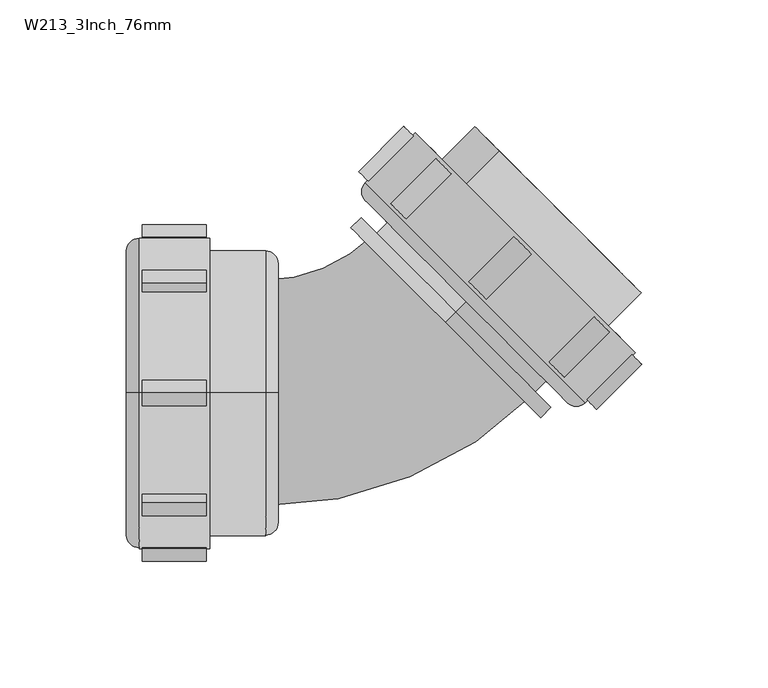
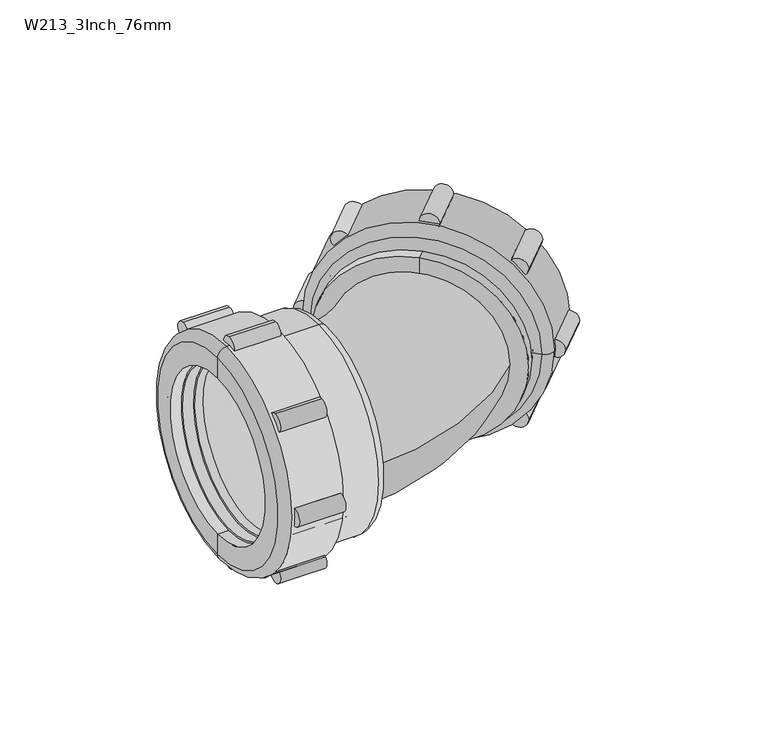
"""IFC4 building model written with IfcOpenShell, lengths in millimetres: pipe fitting geometry, Durapipe_PipeFitting_VulcatheneMechanical_135LooseNutSweepBend_W21 : W213_3Inch_76mm."""

from ifc_helpers import new_model, si_unit, point, frame, frame_2d, origin, place, context, project, spatial, polyline, circle_curve, ellipse_curve, trimmed, segment, composite_curve, outline, extrude, source, transform, mapped, element, save
from ifc_brep_helpers import plane_surface, cylinder_surface, revolved_surface, advanced_brep


def w213_3inch_76mm_c7faae38(model_context):
    return source(origin(), model_context, "Body", "SolidModel", [
        advanced_brep(
        [(15.1176257, 66.0176257, 35.9917352), (18.4176257, 62.7176257, 31.3248304), (62.7176257, 18.4176257, -31.3248304), (66.0176257, 15.1176257, -35.9917352), (78.1718934, 31.6718934, -32.8804653), (31.6718934, 78.1718934, 32.8804653), (49.1374309, 95.6374309, 32.8804653), (95.6374309, 49.1374309, -32.8804653), (94.5374309, 50.2374309, -31.3248304), (50.2374309, 94.5374309, 31.3248304), (70.2836683, 25.9836683, -31.3248304), (25.9836683, 70.2836683, 31.3248304), (69.8336683, 26.4336683, -30.6884343), (26.4336683, 69.8336683, 30.6884343), (22.7309771, 67.0309771, 31.3248304), (23.1809771, 66.5809771, 30.6884343), (66.5809771, 23.1809771, -30.6884343), (67.0309771, 22.7309771, -31.3248304)],
        [
            (0, 1),
            (1, 2, circle_curve(frame((40.5676257, 40.5676257, 0.0), z_axis=(0.7071067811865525, 0.7071067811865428, 0.0), x_axis=(0.4999999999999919, -0.5000000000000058, -0.7071067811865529)), 44.3)),
            (2, 3),
            (3, 0, circle_curve(frame((40.5676257, 40.5676257, 0.0), z_axis=(-0.7071067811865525, -0.7071067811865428, 0.0), x_axis=(0.4999999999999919, -0.5000000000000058, -0.7071067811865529)), 50.9)),
            (2, 1, circle_curve(frame((40.5676257, 40.5676257, 0.0), z_axis=(0.7071067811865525, 0.7071067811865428, 0.0), x_axis=(0.4999999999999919, -0.5000000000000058, -0.7071067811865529)), 44.3)),
            (0, 3, circle_curve(frame((40.5676257, 40.5676257, 0.0), z_axis=(-0.7071067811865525, -0.7071067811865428, 0.0), x_axis=(0.4999999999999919, -0.5000000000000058, -0.7071067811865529)), 50.9)),
            (3, 4),
            (4, 5, circle_curve(frame((54.9218934, 54.9218934, 0.0), z_axis=(-0.7071067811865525, -0.7071067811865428, 0.0), x_axis=(0.4999999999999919, -0.5000000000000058, -0.7071067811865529)), 46.5)),
            (5, 0),
            (5, 4, circle_curve(frame((54.9218934, 54.9218934, 0.0), z_axis=(-0.7071067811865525, -0.7071067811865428, 0.0), x_axis=(0.4999999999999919, -0.5000000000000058, -0.7071067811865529)), 46.5)),
            (6, 5),
            (4, 7),
            (7, 6, circle_curve(frame((72.3874309, 72.3874309, 0.0), z_axis=(-0.7071067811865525, -0.7071067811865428, 0.0), x_axis=(0.4999999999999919, -0.5000000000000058, -0.7071067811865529)), 46.5)),
            (6, 7, circle_curve(frame((72.3874309, 72.3874309, 0.0), z_axis=(-0.7071067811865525, -0.7071067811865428, 0.0), x_axis=(0.4999999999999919, -0.5000000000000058, -0.7071067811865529)), 46.5)),
            (7, 8),
            (8, 9, circle_curve(frame((72.3874309, 72.3874309, 0.0), z_axis=(-0.7071067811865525, -0.7071067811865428, 0.0), x_axis=(0.4999999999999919, -0.5000000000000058, -0.7071067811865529)), 44.3)),
            (9, 6),
            (9, 8, circle_curve(frame((72.3874309, 72.3874309, 0.0), z_axis=(-0.7071067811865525, -0.7071067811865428, 0.0), x_axis=(0.4999999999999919, -0.5000000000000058, -0.7071067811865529)), 44.3)),
            (8, 10),
            (10, 11, circle_curve(frame((48.1336683, 48.1336683, 0.0), z_axis=(-0.7071067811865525, -0.7071067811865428, 0.0), x_axis=(0.4999999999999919, -0.5000000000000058, -0.7071067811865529)), 44.3)),
            (11, 9),
            (11, 10, circle_curve(frame((48.1336683, 48.1336683, 0.0), z_axis=(-0.7071067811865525, -0.7071067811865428, 0.0), x_axis=(0.4999999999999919, -0.5000000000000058, -0.7071067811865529)), 44.3)),
            (10, 12),
            (12, 13, circle_curve(frame((48.1336683, 48.1336683, 0.0), z_axis=(-0.7071067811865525, -0.7071067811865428, 0.0), x_axis=(0.4999999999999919, -0.5000000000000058, -0.7071067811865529)), 43.4)),
            (13, 11),
            (13, 12, circle_curve(frame((48.1336683, 48.1336683, 0.0), z_axis=(-0.7071067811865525, -0.7071067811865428, 0.0), x_axis=(0.4999999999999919, -0.5000000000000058, -0.7071067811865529)), 43.4)),
            (14, 15),
            (15, 16, circle_curve(frame((44.8809771, 44.8809771, 0.0), z_axis=(0.7071067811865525, 0.7071067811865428, 0.0), x_axis=(0.4999999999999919, -0.5000000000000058, -0.7071067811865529)), 43.4)),
            (16, 17),
            (17, 14, circle_curve(frame((44.8809771, 44.8809771, 0.0), z_axis=(-0.7071067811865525, -0.7071067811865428, 0.0), x_axis=(0.4999999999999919, -0.5000000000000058, -0.7071067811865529)), 44.3)),
            (16, 15, circle_curve(frame((44.8809771, 44.8809771, 0.0), z_axis=(0.7071067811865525, 0.7071067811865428, 0.0), x_axis=(0.4999999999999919, -0.5000000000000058, -0.7071067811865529)), 43.4)),
            (14, 17, circle_curve(frame((44.8809771, 44.8809771, 0.0), z_axis=(-0.7071067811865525, -0.7071067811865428, 0.0), x_axis=(0.4999999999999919, -0.5000000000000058, -0.7071067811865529)), 44.3)),
            (1, 14),
            (17, 2),
            (12, 16),
            (15, 13),
        ],
        [
            plane_surface(frame((40.5676257, 40.5676257, 0.0), z_axis=(-0.7071067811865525, -0.7071067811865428, 0.0), x_axis=(0.4999999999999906, -0.5000000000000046, -0.7071067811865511))),
            revolved_surface(polyline([(66.0176257, 15.1176257, -35.9917352), (78.1718934, 31.6718934, -32.8804653)]), (37.0320918, 37.0320918, 0.0), (0.7071067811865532, 0.7071067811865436, 0.0)),
            cylinder_surface(frame((73.8516056, 73.8516056, 0.0), z_axis=(0.7071067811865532, 0.7071067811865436, 0.0), x_axis=(0.4999999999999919, -0.5000000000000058, -0.7071067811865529)), 46.5),
            plane_surface(frame((72.3874309, 72.3874309, 0.0), z_axis=(0.7071067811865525, 0.7071067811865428, 0.0), x_axis=(0.4999999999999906, -0.5000000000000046, -0.7071067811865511))),
            revolved_surface(polyline([(94.53743089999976, 50.23743089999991, -31.324830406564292), (70.28366829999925, 25.983668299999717, -31.324830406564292)]), (74.8573485, 74.8573485, 0.0), (0.7071067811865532, 0.7071067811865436, 0.0)),
            plane_surface(frame((48.1336683, 48.1336683, 0.0), z_axis=(0.7071067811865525, 0.7071067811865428, 0.0), x_axis=(0.4999999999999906, -0.5000000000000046, -0.7071067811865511))),
            plane_surface(frame((44.8809771, 44.8809771, 0.0), z_axis=(-0.7071067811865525, -0.7071067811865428, 0.0), x_axis=(0.4999999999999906, -0.5000000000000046, -0.7071067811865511))),
            revolved_surface(polyline([(67.03097709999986, 22.730977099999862, -31.324830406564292), (62.717625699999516, 18.417625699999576, -31.324830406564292)]), (37.0320918, 37.0320918, 0.0), (0.7071067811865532, 0.7071067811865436, 0.0)),
            revolved_surface(polyline([(69.83366829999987, 26.43366829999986, -30.688434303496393), (66.58097709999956, 23.180977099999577, -30.688434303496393)]), (39.4601604, 39.4601604, 0.0), (0.7071067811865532, 0.7071067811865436, 0.0)),
        ],
        [
            (0, [[1, 2, 3, 4]]),
            (0, [[5, -1, 6, -3]]),
            (1, [[7, 8, 9, -4]]),
            (1, [[-9, 10, -7, -6]]),
            (2, [[11, -8, 12, 13]]),
            (2, [[-10, -11, 14, -12]]),
            (3, [[15, 16, 17, -13]]),
            (3, [[-17, 18, -15, -14]]),
            (4, [[-16, 19, 20, 21]]),
            (4, [[22, -19, -18, -21]]),
            (5, [[23, 24, 25, -20]]),
            (5, [[-25, 26, -23, -22]]),
            (6, [[27, 28, 29, 30]]),
            (6, [[-29, 31, -27, 32]]),
            (7, [[33, -30, 34, -2]]),
            (7, [[-34, -32, -33, -5]]),
            (8, [[-24, 35, -28, 36]]),
            (8, [[-31, -35, -26, -36]]),
        ],
    ),
        advanced_brep(
        [(15.9603097, 102.9344438, 0.0), (-3.8386801, 83.135454, 0.0), (83.135454, -3.8386801, 0.0), (102.9344438, 15.9603097, 0.0), (21.9707174, 96.9240362, 0.0), (96.9240362, 21.9707174, 0.0), (-3.8386801, 76.0643861, 0.0), (4.2930479, 67.9326582, 0.0), (67.9326582, 4.2930479, 0.0), (76.0643861, -3.8386801, 0.0), (3.0909663, 78.0442851, 0.0), (78.0442851, 3.0909663, 0.0), (8.7478206, 72.3874309, 0.0), (72.3874309, 8.7478206, 0.0)],
        [
            (0, 1),
            (1, 2, circle_curve(frame((39.6483869, 39.6483869, 0.0), z_axis=(0.7071067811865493, 0.7071067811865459, 0.0), x_axis=(0.7071067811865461, -0.7071067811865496, 0.0)), 61.5)),
            (2, 3),
            (3, 0, circle_curve(frame((59.4473768, 59.4473768, 0.0), z_axis=(-0.7071067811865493, -0.7071067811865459, 0.0), x_axis=(0.7071067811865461, -0.7071067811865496, 0.0)), 61.5)),
            (2, 1, circle_curve(frame((39.6483869, 39.6483869, 0.0), z_axis=(0.7071067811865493, 0.7071067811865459, 0.0), x_axis=(0.7071067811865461, -0.7071067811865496, 0.0)), 61.5)),
            (0, 3, circle_curve(frame((59.4473768, 59.4473768, 0.0), z_axis=(-0.7071067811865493, -0.7071067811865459, 0.0), x_axis=(0.7071067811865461, -0.7071067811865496, 0.0)), 61.5)),
            (4, 0),
            (3, 5),
            (5, 4, circle_curve(frame((59.4473768, 59.4473768, 0.0), z_axis=(-0.7071067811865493, -0.7071067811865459, 0.0), x_axis=(0.7071067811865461, -0.7071067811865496, 0.0)), 53.0)),
            (4, 5, circle_curve(frame((59.4473768, 59.4473768, 0.0), z_axis=(-0.7071067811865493, -0.7071067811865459, 0.0), x_axis=(0.7071067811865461, -0.7071067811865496, 0.0)), 53.0)),
            (6, 7),
            (7, 8, circle_curve(frame((36.112853, 36.112853, 0.0), z_axis=(0.7071067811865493, 0.7071067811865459, 0.0), x_axis=(0.7071067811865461, -0.7071067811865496, 0.0)), 45.0)),
            (8, 9),
            (9, 6, circle_curve(frame((36.112853, 36.112853, 0.0), z_axis=(-0.7071067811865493, -0.7071067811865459, 0.0), x_axis=(0.7071067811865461, -0.7071067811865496, 0.0)), 56.5)),
            (8, 7, circle_curve(frame((36.112853, 36.112853, 0.0), z_axis=(0.7071067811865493, 0.7071067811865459, 0.0), x_axis=(0.7071067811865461, -0.7071067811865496, 0.0)), 45.0)),
            (6, 9, circle_curve(frame((36.112853, 36.112853, 0.0), z_axis=(-0.7071067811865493, -0.7071067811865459, 0.0), x_axis=(0.7071067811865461, -0.7071067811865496, 0.0)), 56.5)),
            (1, 6, circle_curve(frame((-0.3031462, 79.59992, 0.0), z_axis=(0.0, 0.0, 1.0000000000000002), x_axis=(-0.7071067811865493, -0.7071067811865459, 0.0)), 5.0)),
            (9, 2, circle_curve(frame((79.59992, -0.3031462, 0.0), z_axis=(0.0, 0.0, 1.0000000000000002), x_axis=(-0.7071067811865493, -0.7071067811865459, 0.0)), 5.0)),
            (10, 4),
            (5, 11),
            (11, 10, circle_curve(frame((40.5676257, 40.5676257, 0.0), z_axis=(-0.7071067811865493, -0.7071067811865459, 0.0), x_axis=(0.7071067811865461, -0.7071067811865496, 0.0)), 53.0)),
            (10, 11, circle_curve(frame((40.5676257, 40.5676257, 0.0), z_axis=(-0.7071067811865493, -0.7071067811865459, 0.0), x_axis=(0.7071067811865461, -0.7071067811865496, 0.0)), 53.0)),
            (12, 10),
            (11, 13),
            (13, 12, circle_curve(frame((40.5676257, 40.5676257, 0.0), z_axis=(-0.7071067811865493, -0.7071067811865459, 0.0), x_axis=(0.7071067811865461, -0.7071067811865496, 0.0)), 45.0)),
            (12, 13, circle_curve(frame((40.5676257, 40.5676257, 0.0), z_axis=(-0.7071067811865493, -0.7071067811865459, 0.0), x_axis=(0.7071067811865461, -0.7071067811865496, 0.0)), 45.0)),
            (7, 12),
            (13, 8),
        ],
        [
            cylinder_surface(frame((-1067.5406969, -1067.5406969, 0.0), z_axis=(0.7071067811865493, 0.7071067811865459, 0.0), x_axis=(0.7071067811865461, -0.7071067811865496, 0.0)), 61.5),
            plane_surface(frame((59.4473768, 59.4473768, 0.0), z_axis=(0.7071067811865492, 0.7071067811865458, 0.0), x_axis=(0.7071067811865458, -0.7071067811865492, 0.0))),
            plane_surface(frame((36.112853, 36.112853, 0.0), z_axis=(-0.7071067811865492, -0.7071067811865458, 0.0), x_axis=(0.7071067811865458, -0.7071067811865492, 0.0))),
            revolved_surface(trimmed(ellipse_curve(frame((79.59992, -0.3031462, 0.0), z_axis=(0.0, 0.0, 1.0000000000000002), x_axis=(-0.7071067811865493, -0.7071067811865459, 0.0)), 5.0, 5.0), [point((76.0643861, -3.8386801, 0.0))], [point((83.135454, -3.8386801, 0.0))], True, "CARTESIAN"), (-1067.5406969, -1067.5406969, 0.0), (0.7071067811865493, 0.7071067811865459, 0.0)),
            revolved_surface(polyline([(96.92403620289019, 21.970717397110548, 0.0), (78.04428510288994, 3.090966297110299, 0.0)]), (-1067.5406969, -1067.5406969, 0.0), (0.7071067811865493, 0.7071067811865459, 0.0)),
            plane_surface(frame((40.5676257, 40.5676257, 0.0), z_axis=(0.7071067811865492, 0.7071067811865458, 0.0), x_axis=(0.7071067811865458, -0.7071067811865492, 0.0))),
            revolved_surface(polyline([(72.38743090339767, 8.747820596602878, 0.0), (67.9326581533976, 4.293047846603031, 0.0)]), (-1067.5406969, -1067.5406969, 0.0), (0.7071067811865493, 0.7071067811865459, 0.0)),
        ],
        [
            (0, [[1, 2, 3, 4]]),
            (0, [[-3, 5, -1, 6]]),
            (1, [[7, -4, 8, 9]]),
            (1, [[-8, -6, -7, 10]]),
            (2, [[11, 12, 13, 14]]),
            (2, [[-13, 15, -11, 16]]),
            (3, [[17, -14, 18, -2]]),
            (3, [[-18, -16, -17, -5]]),
            (4, [[19, -9, 20, 21]]),
            (4, [[-20, -10, -19, 22]]),
            (5, [[23, -21, 24, 25]]),
            (5, [[-24, -22, -23, 26]]),
            (6, [[27, -25, 28, -12]]),
            (6, [[-28, -26, -27, -15]]),
        ],
    ),
        extrude(outline(composite_curve([segment(trimmed(circle_curve(frame_2d((0.0, 5.0)), 5.0), [point((0.0, 10.0))], [point((0.0, 0.0))], False, "CARTESIAN"), True, "CONTINUOUS"), segment(trimmed(circle_curve(frame_2d((0.0, 5.0)), 5.0), [point((0.0, 0.0))], [point((0.0, 10.0))], False, "CARTESIAN"), True, "CONTINUOUS")], self_intersect=False)), frame((44.1031596, 37.0320918, -61.5), z_axis=(0.7071067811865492, 0.7071067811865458, 0.0), x_axis=(0.0, 0.0, -1.0)), (0.0, 0.0, 1.0), 25.2),
        extrude(outline(composite_curve([segment(trimmed(circle_curve(frame_2d((-18.012933, -38.4870671)), 5.0), [point((-18.012933, -33.4870671))], [point((-18.012933, -43.487067))], False, "CARTESIAN"), True, "CONTINUOUS"), segment(trimmed(circle_curve(frame_2d((-18.012933, -38.4870671)), 5.0), [point((-18.012933, -43.487067))], [point((-18.012933, -33.4870671))], False, "CARTESIAN"), True, "CONTINUOUS")], self_intersect=False)), frame((44.1031596, 37.0320918, -61.5), z_axis=(0.7071067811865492, 0.7071067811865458, 0.0), x_axis=(0.0, 0.0, -1.0)), (0.0, 0.0, 1.0), 25.2),
        extrude(outline(composite_curve([segment(trimmed(circle_curve(frame_2d((-61.5, -56.5)), 5.0), [point((-61.5, -51.5))], [point((-61.5, -61.5))], False, "CARTESIAN"), True, "CONTINUOUS"), segment(trimmed(circle_curve(frame_2d((-61.5, -56.5)), 5.0), [point((-61.5, -61.5))], [point((-61.5, -51.5))], False, "CARTESIAN"), True, "CONTINUOUS")], self_intersect=False)), frame((44.1031596, 37.0320918, -61.5), z_axis=(0.7071067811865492, 0.7071067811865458, 0.0), x_axis=(0.0, 0.0, -1.0)), (0.0, 0.0, 1.0), 25.2),
        extrude(outline(composite_curve([segment(trimmed(circle_curve(frame_2d((-104.987067, -38.4870671)), 5.0), [point((-104.987067, -33.4870671))], [point((-104.987067, -43.487067))], False, "CARTESIAN"), True, "CONTINUOUS"), segment(trimmed(circle_curve(frame_2d((-104.987067, -38.4870671)), 5.0), [point((-104.987067, -43.487067))], [point((-104.987067, -33.4870671))], False, "CARTESIAN"), True, "CONTINUOUS")], self_intersect=False)), frame((44.1031596, 37.0320918, -61.5), z_axis=(0.7071067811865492, 0.7071067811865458, 0.0), x_axis=(0.0, 0.0, -1.0)), (0.0, 0.0, 1.0), 25.2),
        extrude(outline(composite_curve([segment(trimmed(circle_curve(frame_2d((-123.0, 5.0)), 5.0), [point((-123.0, 10.0))], [point((-123.0, 0.0))], False, "CARTESIAN"), True, "CONTINUOUS"), segment(trimmed(circle_curve(frame_2d((-123.0, 5.0)), 5.0), [point((-123.0, 0.0))], [point((-123.0, 10.0))], False, "CARTESIAN"), True, "CONTINUOUS")], self_intersect=False)), frame((44.1031596, 37.0320918, -61.5), z_axis=(0.7071067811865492, 0.7071067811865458, 0.0), x_axis=(0.0, 0.0, -1.0)), (0.0, 0.0, 1.0), 25.2),
        extrude(outline(composite_curve([segment(trimmed(circle_curve(frame_2d((-104.987067, 48.487067)), 5.0), [point((-104.987067, 53.487067))], [point((-104.987067, 43.487067))], False, "CARTESIAN"), True, "CONTINUOUS"), segment(trimmed(circle_curve(frame_2d((-104.987067, 48.487067)), 5.0), [point((-104.987067, 43.487067))], [point((-104.987067, 53.487067))], False, "CARTESIAN"), True, "CONTINUOUS")], self_intersect=False)), frame((44.1031596, 37.0320918, -61.5), z_axis=(0.7071067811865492, 0.7071067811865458, 0.0), x_axis=(0.0, 0.0, -1.0)), (0.0, 0.0, 1.0), 25.2),
        extrude(outline(composite_curve([segment(trimmed(circle_curve(frame_2d((-61.5, 66.5)), 5.0), [point((-61.5, 71.5))], [point((-61.5, 61.5))], False, "CARTESIAN"), True, "CONTINUOUS"), segment(trimmed(circle_curve(frame_2d((-61.5, 66.5)), 5.0), [point((-61.5, 61.5))], [point((-61.5, 71.5))], False, "CARTESIAN"), True, "CONTINUOUS")], self_intersect=False)), frame((44.1031596, 37.0320918, -61.5), z_axis=(0.7071067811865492, 0.7071067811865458, 0.0), x_axis=(0.0, 0.0, -1.0)), (0.0, 0.0, 1.0), 25.2),
        extrude(outline(composite_curve([segment(trimmed(circle_curve(frame_2d((-18.012933, 48.487067)), 5.0), [point((-18.012933, 53.487067))], [point((-18.012933, 43.487067))], False, "CARTESIAN"), True, "CONTINUOUS"), segment(trimmed(circle_curve(frame_2d((-18.012933, 48.487067)), 5.0), [point((-18.012933, 43.487067))], [point((-18.012933, 53.487067))], False, "CARTESIAN"), True, "CONTINUOUS")], self_intersect=False)), frame((44.1031596, 37.0320918, -61.5), z_axis=(0.7071067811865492, 0.7071067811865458, 0.0), x_axis=(0.0, 0.0, -1.0)), (0.0, 0.0, 1.0), 25.2),
        advanced_brep(
        [(72.3874309, 72.3874309, 44.55), (72.3874309, 72.3874309, -44.55), (72.3874309, 72.3874309, -35.8), (72.3874309, 72.3874309, 35.8), (31.940923, 31.940923, 44.55), (31.940923, 31.940923, -44.55), (31.940923, 31.940923, 53.2), (31.940923, 31.940923, -53.2), (27.9104143, 27.9104143, 53.2), (27.9104143, 27.9104143, -53.2), (27.9104143, 27.9104143, 35.8), (27.9104143, 27.9104143, -35.8)],
        [
            (0, 1, circle_curve(frame((72.3874309, 72.3874309, 0.0), z_axis=(0.7071067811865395, 0.7071067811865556, 0.0), x_axis=(0.0, 0.0, -1.0)), 44.55)),
            (1, 2),
            (2, 3, circle_curve(frame((72.3874309, 72.3874309, 0.0), z_axis=(-0.7071067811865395, -0.7071067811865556, 0.0), x_axis=(0.0, 0.0, -1.0)), 35.8)),
            (3, 0),
            (1, 0, circle_curve(frame((72.3874309, 72.3874309, 0.0), z_axis=(0.7071067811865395, 0.7071067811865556, 0.0), x_axis=(0.0, 0.0, -1.0)), 44.55)),
            (3, 2, circle_curve(frame((72.3874309, 72.3874309, 0.0), z_axis=(-0.7071067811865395, -0.7071067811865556, 0.0), x_axis=(0.0, 0.0, -1.0)), 35.8)),
            (4, 5, circle_curve(frame((31.940923, 31.940923, 0.0), z_axis=(0.7071067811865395, 0.7071067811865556, 0.0), x_axis=(0.0, 0.0, -1.0)), 44.55)),
            (5, 1),
            (0, 4),
            (5, 4, circle_curve(frame((31.940923, 31.940923, 0.0), z_axis=(0.7071067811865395, 0.7071067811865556, 0.0), x_axis=(0.0, 0.0, -1.0)), 44.55)),
            (6, 7, circle_curve(frame((31.940923, 31.940923, 0.0), z_axis=(0.7071067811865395, 0.7071067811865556, 0.0), x_axis=(0.0, 0.0, -1.0)), 53.2)),
            (7, 5),
            (4, 6),
            (7, 6, circle_curve(frame((31.940923, 31.940923, 0.0), z_axis=(0.7071067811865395, 0.7071067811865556, 0.0), x_axis=(0.0, 0.0, -1.0)), 53.2)),
            (8, 9, circle_curve(frame((27.9104143, 27.9104143, 0.0), z_axis=(0.7071067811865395, 0.7071067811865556, 0.0), x_axis=(0.0, 0.0, -1.0)), 53.2)),
            (9, 7),
            (6, 8),
            (9, 8, circle_curve(frame((27.9104143, 27.9104143, 0.0), z_axis=(0.7071067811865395, 0.7071067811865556, 0.0), x_axis=(0.0, 0.0, -1.0)), 53.2)),
            (10, 11, circle_curve(frame((27.9104143, 27.9104143, 0.0), z_axis=(0.7071067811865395, 0.7071067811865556, 0.0), x_axis=(0.0, 0.0, -1.0)), 35.8)),
            (11, 9),
            (8, 10),
            (11, 10, circle_curve(frame((27.9104143, 27.9104143, 0.0), z_axis=(0.7071067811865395, 0.7071067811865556, 0.0), x_axis=(0.0, 0.0, -1.0)), 35.8)),
            (2, 11),
            (10, 3),
        ],
        [
            plane_surface(frame((72.3874309, 72.3874309, 0.0), z_axis=(0.7071067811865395, 0.7071067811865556, 0.0), x_axis=(0.0, 0.0, -1.0))),
            cylinder_surface(frame((79.4584987, 79.4584987, 0.0), z_axis=(-0.7071067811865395, -0.7071067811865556, 0.0), x_axis=(0.0, 0.0, -1.0)), 44.55),
            plane_surface(frame((31.940923, 31.940923, 0.0), z_axis=(0.7071067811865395, 0.7071067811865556, 0.0), x_axis=(0.0, 0.0, -1.0))),
            cylinder_surface(frame((79.4584987, 79.4584987, 0.0), z_axis=(-0.7071067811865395, -0.7071067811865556, 0.0), x_axis=(0.0, 0.0, -1.0)), 53.2),
            plane_surface(frame((27.9104143, 27.9104143, 0.0), z_axis=(-0.7071067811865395, -0.7071067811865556, 0.0), x_axis=(0.0, 0.0, -1.0))),
            revolved_surface(polyline([(27.910414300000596, 27.910414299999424, -35.8), (72.38743090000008, 72.38743089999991, -35.8)]), (79.4584987, 79.4584987, 0.0), (-0.7071067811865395, -0.7071067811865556, 0.0)),
        ],
        [
            (0, [[1, 2, 3, 4]]),
            (0, [[5, -4, 6, -2]]),
            (1, [[7, 8, -1, 9]]),
            (1, [[10, -9, -5, -8]]),
            (2, [[11, 12, -7, 13]]),
            (2, [[14, -13, -10, -12]]),
            (3, [[15, 16, -11, 17]]),
            (3, [[18, -17, -14, -16]]),
            (4, [[19, 20, -15, 21]]),
            (4, [[22, -21, -18, -20]]),
            (5, [[-3, 23, -19, 24]]),
            (5, [[-6, -24, -22, -23]]),
        ],
    ),
        advanced_brep(
        [(-92.0066376, -35.9917352, -35.9917352), (-92.0066376, 35.9917352, 35.9917352), (-92.0066376, 31.3248304, 31.3248304), (-92.0066376, -31.3248304, -31.3248304), (-71.7066376, -32.8804653, -32.8804653), (-71.7066376, 32.8804653, 32.8804653), (-47.0066376, -32.8804653, -32.8804653), (-47.0066376, 32.8804653, 32.8804653), (-47.0066376, -31.3248304, -31.3248304), (-47.0066376, 31.3248304, 31.3248304), (-81.3066376, -31.3248304, -31.3248304), (-81.3066376, 31.3248304, 31.3248304), (-81.3066376, -30.6884343, -30.6884343), (-81.3066376, 30.6884343, 30.6884343), (-85.9066376, -31.3248304, -31.3248304), (-85.9066376, 31.3248304, 31.3248304), (-85.9066376, 30.6884343, 30.6884343), (-85.9066376, -30.6884343, -30.6884343)],
        [
            (0, 1, circle_curve(frame((-92.0066376, 0.0, 0.0), z_axis=(-1.0, 0.0, 0.0), x_axis=(0.0, 0.7071067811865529, 0.7071067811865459)), 50.9)),
            (1, 2),
            (2, 3, circle_curve(frame((-92.0066376, 0.0, 0.0), z_axis=(1.0, 0.0, 0.0), x_axis=(0.0, 0.7071067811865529, 0.7071067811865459)), 44.3)),
            (3, 0),
            (1, 0, circle_curve(frame((-92.0066376, 0.0, 0.0), z_axis=(-1.0, 0.0, 0.0), x_axis=(0.0, 0.7071067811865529, 0.7071067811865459)), 50.9)),
            (3, 2, circle_curve(frame((-92.0066376, 0.0, 0.0), z_axis=(1.0, 0.0, 0.0), x_axis=(0.0, 0.7071067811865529, 0.7071067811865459)), 44.3)),
            (0, 4),
            (4, 5, circle_curve(frame((-71.7066376, 0.0, 0.0), z_axis=(-1.0, 0.0, 0.0), x_axis=(0.0, 0.7071067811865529, 0.7071067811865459)), 46.5)),
            (5, 1),
            (5, 4, circle_curve(frame((-71.7066376, 0.0, 0.0), z_axis=(-1.0, 0.0, 0.0), x_axis=(0.0, 0.7071067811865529, 0.7071067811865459)), 46.5)),
            (6, 7, circle_curve(frame((-47.0066376, 0.0, 0.0), z_axis=(-1.0, 0.0, 0.0), x_axis=(0.0, 0.7071067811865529, 0.7071067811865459)), 46.5)),
            (7, 5),
            (4, 6),
            (7, 6, circle_curve(frame((-47.0066376, 0.0, 0.0), z_axis=(-1.0, 0.0, 0.0), x_axis=(0.0, 0.7071067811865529, 0.7071067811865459)), 46.5)),
            (6, 8),
            (8, 9, circle_curve(frame((-47.0066376, 0.0, 0.0), z_axis=(-1.0, 0.0, 0.0), x_axis=(0.0, 0.7071067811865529, 0.7071067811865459)), 44.3)),
            (9, 7),
            (9, 8, circle_curve(frame((-47.0066376, 0.0, 0.0), z_axis=(-1.0, 0.0, 0.0), x_axis=(0.0, 0.7071067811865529, 0.7071067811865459)), 44.3)),
            (8, 10),
            (10, 11, circle_curve(frame((-81.3066376, 0.0, 0.0), z_axis=(-1.0, 0.0, 0.0), x_axis=(0.0, 0.7071067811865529, 0.7071067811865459)), 44.3)),
            (11, 9),
            (11, 10, circle_curve(frame((-81.3066376, 0.0, 0.0), z_axis=(-1.0, 0.0, 0.0), x_axis=(0.0, 0.7071067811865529, 0.7071067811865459)), 44.3)),
            (10, 12),
            (12, 13, circle_curve(frame((-81.3066376, 0.0, 0.0), z_axis=(-1.0, 0.0, 0.0), x_axis=(0.0, 0.7071067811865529, 0.7071067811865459)), 43.4)),
            (13, 11),
            (13, 12, circle_curve(frame((-81.3066376, 0.0, 0.0), z_axis=(-1.0, 0.0, 0.0), x_axis=(0.0, 0.7071067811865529, 0.7071067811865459)), 43.4)),
            (14, 15, circle_curve(frame((-85.9066376, 0.0, 0.0), z_axis=(-1.0, 0.0, 0.0), x_axis=(0.0, 0.7071067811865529, 0.7071067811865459)), 44.3)),
            (15, 16),
            (16, 17, circle_curve(frame((-85.9066376, 0.0, 0.0), z_axis=(1.0, 0.0, 0.0), x_axis=(0.0, 0.7071067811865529, 0.7071067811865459)), 43.4)),
            (17, 14),
            (15, 14, circle_curve(frame((-85.9066376, 0.0, 0.0), z_axis=(-1.0, 0.0, 0.0), x_axis=(0.0, 0.7071067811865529, 0.7071067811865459)), 44.3)),
            (17, 16, circle_curve(frame((-85.9066376, 0.0, 0.0), z_axis=(1.0, 0.0, 0.0), x_axis=(0.0, 0.7071067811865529, 0.7071067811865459)), 43.4)),
            (2, 15),
            (14, 3),
            (12, 17),
            (16, 13),
        ],
        [
            plane_surface(frame((-92.0066376, 0.0, 0.0), z_axis=(-1.0, 0.0, 0.0), x_axis=(0.0, 0.707106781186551, 0.707106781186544))),
            revolved_surface(polyline([(-92.0066376, 35.9917352, 35.9917352), (-71.7066376, 32.8804653, 32.8804653)]), (-97.0066376, 0.0, 0.0), (1.0000000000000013, 0.0, 0.0)),
            cylinder_surface(frame((-44.9359819, 0.0, 0.0), z_axis=(1.0000000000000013, 0.0, 0.0), x_axis=(0.0, 0.7071067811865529, 0.7071067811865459)), 46.5),
            plane_surface(frame((-47.0066376, 0.0, 0.0), z_axis=(1.0, 0.0, 0.0), x_axis=(0.0, 0.707106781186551, 0.707106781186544))),
            revolved_surface(polyline([(-47.006637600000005, 31.324830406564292, 31.324830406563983), (-81.3066376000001, 31.324830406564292, 31.324830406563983)]), (-43.5136467, 0.0, 0.0), (1.0000000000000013, 0.0, 0.0)),
            plane_surface(frame((-81.3066376, 0.0, 0.0), z_axis=(1.0, 0.0, 0.0), x_axis=(0.0, 0.707106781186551, 0.707106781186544))),
            plane_surface(frame((-85.9066376, 0.0, 0.0), z_axis=(-1.0, 0.0, 0.0), x_axis=(0.0, 0.707106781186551, 0.707106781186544))),
            revolved_surface(polyline([(-85.90663759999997, 31.324830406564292, 31.324830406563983), (-92.00663759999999, 31.324830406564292, 31.324830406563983)]), (-97.0066376, 0.0, 0.0), (1.0000000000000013, 0.0, 0.0)),
            revolved_surface(polyline([(-81.30663759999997, 30.688434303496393, 30.68843430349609), (-85.90663759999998, 30.688434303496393, 30.68843430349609)]), (-93.57283, 0.0, 0.0), (1.0000000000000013, 0.0, 0.0)),
        ],
        [
            (0, [[1, 2, 3, 4]]),
            (0, [[-2, 5, -4, 6]]),
            (1, [[-1, 7, 8, 9]]),
            (1, [[-5, -9, 10, -7]]),
            (2, [[11, 12, -8, 13]]),
            (2, [[-12, 14, -13, -10]]),
            (3, [[-11, 15, 16, 17]]),
            (3, [[-14, -17, 18, -15]]),
            (4, [[19, 20, 21, -16]]),
            (4, [[-19, -18, -21, 22]]),
            (5, [[-20, 23, 24, 25]]),
            (5, [[-22, -25, 26, -23]]),
            (6, [[27, 28, 29, 30]]),
            (6, [[31, -30, 32, -28]]),
            (7, [[-3, 33, -27, 34]]),
            (7, [[-6, -34, -31, -33]]),
            (8, [[35, -29, 36, -24]]),
            (8, [[-35, -26, -36, -32]]),
        ],
    ),
        advanced_brep(
        [(-65.3066376, 0.0, -61.5), (-65.3066376, 0.0, 61.5), (-93.3066376, 0.0, 61.5), (-93.3066376, 0.0, -61.5), (-65.3066376, 0.0, -56.5), (-65.3066376, 0.0, 56.5), (-98.3066376, 0.0, -56.5), (-98.3066376, 0.0, 56.5), (-98.3066376, 0.0, 45.0), (-98.3066376, 0.0, -45.0), (-92.0066376, 0.0, -53.0), (-92.0066376, 0.0, 53.0), (-43.9066376, 0.0, 53.0), (-43.9066376, 0.0, -53.0), (-92.0066376, 0.0, -45.0), (-92.0066376, 0.0, 45.0), (-43.3066376, 0.0, -56.5), (-43.3066376, 0.0, 56.5), (-38.3066376, 0.0, -51.5), (-38.3066376, 0.0, 51.5), (-38.3066376, 0.0, 0.0), (-43.9066376, 0.0, 0.0)],
        [
            (0, 1, circle_curve(frame((-65.3066376, 0.0, 0.0), z_axis=(-1.0, 0.0, 0.0), x_axis=(0.0, 0.0, 1.0000000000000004)), 61.5)),
            (1, 2),
            (2, 3, circle_curve(frame((-93.3066376, 0.0, 0.0), z_axis=(1.0, 0.0, 0.0), x_axis=(0.0, 0.0, 1.0000000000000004)), 61.5)),
            (3, 0),
            (1, 0, circle_curve(frame((-65.3066376, 0.0, 0.0), z_axis=(-1.0, 0.0, 0.0), x_axis=(0.0, 0.0, 1.0000000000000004)), 61.5)),
            (3, 2, circle_curve(frame((-93.3066376, 0.0, 0.0), z_axis=(1.0, 0.0, 0.0), x_axis=(0.0, 0.0, 1.0000000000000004)), 61.5)),
            (4, 5, circle_curve(frame((-65.3066376, 0.0, 0.0), z_axis=(-1.0, 0.0, 0.0), x_axis=(0.0, 0.0, 1.0000000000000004)), 56.5)),
            (5, 1),
            (0, 4),
            (5, 4, circle_curve(frame((-65.3066376, 0.0, 0.0), z_axis=(-1.0, 0.0, 0.0), x_axis=(0.0, 0.0, 1.0000000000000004)), 56.5)),
            (6, 7, circle_curve(frame((-98.3066376, 0.0, 0.0), z_axis=(-1.0, 0.0, 0.0), x_axis=(0.0, 0.0, 1.0000000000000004)), 56.5)),
            (7, 8),
            (8, 9, circle_curve(frame((-98.3066376, 0.0, 0.0), z_axis=(1.0, 0.0, 0.0), x_axis=(0.0, 0.0, 1.0000000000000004)), 45.0)),
            (9, 6),
            (7, 6, circle_curve(frame((-98.3066376, 0.0, 0.0), z_axis=(-1.0, 0.0, 0.0), x_axis=(0.0, 0.0, 1.0000000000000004)), 56.5)),
            (9, 8, circle_curve(frame((-98.3066376, 0.0, 0.0), z_axis=(1.0, 0.0, 0.0), x_axis=(0.0, 0.0, 1.0000000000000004)), 45.0)),
            (2, 7, circle_curve(frame((-93.3066376, 0.0, 56.5), z_axis=(0.0, -1.0000000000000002, 0.0), x_axis=(-1.0000000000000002, 0.0, 0.0)), 5.0)),
            (6, 3, circle_curve(frame((-93.3066376, 0.0, -56.5), z_axis=(0.0, -1.0000000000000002, 0.0), x_axis=(-1.0000000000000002, 0.0, 0.0)), 5.0)),
            (10, 11, circle_curve(frame((-92.0066376, 0.0, 0.0), z_axis=(-1.0, 0.0, 0.0), x_axis=(0.0, 0.0, 1.0000000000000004)), 53.0)),
            (11, 12),
            (12, 13, circle_curve(frame((-43.9066376, 0.0, 0.0), z_axis=(1.0, 0.0, 0.0), x_axis=(0.0, 0.0, 1.0000000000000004)), 53.0)),
            (13, 10),
            (11, 10, circle_curve(frame((-92.0066376, 0.0, 0.0), z_axis=(-1.0, 0.0, 0.0), x_axis=(0.0, 0.0, 1.0000000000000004)), 53.0)),
            (13, 12, circle_curve(frame((-43.9066376, 0.0, 0.0), z_axis=(1.0, 0.0, 0.0), x_axis=(0.0, 0.0, 1.0000000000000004)), 53.0)),
            (14, 15, circle_curve(frame((-92.0066376, 0.0, 0.0), z_axis=(-1.0, 0.0, 0.0), x_axis=(0.0, 0.0, 1.0000000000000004)), 45.0)),
            (15, 11),
            (10, 14),
            (15, 14, circle_curve(frame((-92.0066376, 0.0, 0.0), z_axis=(-1.0, 0.0, 0.0), x_axis=(0.0, 0.0, 1.0000000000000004)), 45.0)),
            (8, 15),
            (14, 9),
            (16, 17, circle_curve(frame((-43.3066376, 0.0, 0.0), z_axis=(-1.0, 0.0, 0.0), x_axis=(0.0, 0.0, 1.0000000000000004)), 56.5)),
            (17, 5),
            (4, 16),
            (17, 16, circle_curve(frame((-43.3066376, 0.0, 0.0), z_axis=(-1.0, 0.0, 0.0), x_axis=(0.0, 0.0, 1.0000000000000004)), 56.5)),
            (18, 19, circle_curve(frame((-38.3066376, 0.0, 0.0), z_axis=(-1.0, 0.0, 0.0), x_axis=(0.0, 0.0, 1.0000000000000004)), 51.5)),
            (19, 17, circle_curve(frame((-43.3066376, 0.0, 51.5), z_axis=(0.0, -1.0000000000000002, 0.0), x_axis=(-1.0000000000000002, 0.0, 0.0)), 5.0)),
            (16, 18, circle_curve(frame((-43.3066376, 0.0, -51.5), z_axis=(0.0, -1.0000000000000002, 0.0), x_axis=(-1.0000000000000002, 0.0, 0.0)), 5.0)),
            (19, 18, circle_curve(frame((-38.3066376, 0.0, 0.0), z_axis=(-1.0, 0.0, 0.0), x_axis=(0.0, 0.0, 1.0000000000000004)), 51.5)),
            (20, 19),
            (18, 20),
            (12, 21),
            (21, 13),
        ],
        [
            cylinder_surface(frame((-1659.108456, 0.0, 0.0), z_axis=(1.0000000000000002, 0.0, 0.0), x_axis=(0.0, 0.0, 1.0000000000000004)), 61.5),
            plane_surface(frame((-65.3066376, 0.0, 0.0), z_axis=(1.0, 0.0, 0.0), x_axis=(0.0, 0.0, 1.0))),
            plane_surface(frame((-98.3066376, 0.0, 0.0), z_axis=(-1.0, 0.0, 0.0), x_axis=(0.0, 0.0, 1.0))),
            revolved_surface(trimmed(ellipse_curve(frame((-93.3066376, 0.0, 56.5), z_axis=(0.0, 1.0000000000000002, 0.0), x_axis=(-1.0000000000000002, 0.0, 0.0)), 5.0, 5.0), [point((-98.3066376, 0.0, 56.5))], [point((-93.3066376, 0.0, 61.5))], True, "CARTESIAN"), (-1659.108456, 0.0, 0.0), (1.0000000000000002, 0.0, 0.0)),
            revolved_surface(polyline([(-43.90663759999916, 0.0, 53.00000000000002), (-92.00663759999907, 0.0, 53.00000000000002)]), (-1659.108456, 0.0, 0.0), (1.0000000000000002, 0.0, 0.0)),
            plane_surface(frame((-92.0066376, 0.0, 0.0), z_axis=(1.0, 0.0, 0.0), x_axis=(0.0, 0.0, 1.0))),
            revolved_surface(polyline([(-92.00663759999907, 0.0, 45.00000000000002), (-98.30663759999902, 0.0, 45.00000000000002)]), (-1659.108456, 0.0, 0.0), (1.0000000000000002, 0.0, 0.0)),
            cylinder_surface(frame((-1659.108456, 0.0, 0.0), z_axis=(1.0000000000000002, 0.0, 0.0), x_axis=(0.0, 0.0, 1.0000000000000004)), 56.5),
            revolved_surface(trimmed(ellipse_curve(frame((-43.3066376, 0.0, 51.5), z_axis=(0.0, 1.0000000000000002, 0.0), x_axis=(-1.0000000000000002, 0.0, 0.0)), 5.0, 5.0), [point((-43.3066376, 0.0, 56.5))], [point((-38.3066376, 0.0, 51.5))], True, "CARTESIAN"), (-1659.108456, 0.0, 0.0), (1.0000000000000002, 0.0, 0.0)),
            plane_surface(frame((-38.3066376, 0.0, 0.0), z_axis=(1.0, 0.0, 0.0), x_axis=(0.0, 0.0, 1.0))),
            plane_surface(frame((-43.9066376, 0.0, 0.0), z_axis=(-1.0, 0.0, 0.0), x_axis=(0.0, 0.0, 1.0))),
        ],
        [
            (0, [[1, 2, 3, 4]]),
            (0, [[5, -4, 6, -2]]),
            (1, [[7, 8, -1, 9]]),
            (1, [[10, -9, -5, -8]]),
            (2, [[11, 12, 13, 14]]),
            (2, [[15, -14, 16, -12]]),
            (3, [[-3, 17, -11, 18]]),
            (3, [[-6, -18, -15, -17]]),
            (4, [[19, 20, 21, 22]]),
            (4, [[23, -22, 24, -20]]),
            (5, [[25, 26, -19, 27]]),
            (5, [[28, -27, -23, -26]]),
            (6, [[-13, 29, -25, 30]]),
            (6, [[-16, -30, -28, -29]]),
            (7, [[31, 32, -7, 33]]),
            (7, [[34, -33, -10, -32]]),
            (8, [[35, 36, -31, 37]]),
            (8, [[38, -37, -34, -36]]),
            (9, [[39, -35, 40]]),
            (9, [[-40, -38, -39]]),
            (10, [[-21, 41, 42]]),
            (10, [[-24, -42, -41]]),
        ],
    ),
        extrude(outline(composite_curve([segment(trimmed(circle_curve(frame_2d((61.5, 0.0)), 5.0), [point((61.5, -5.0))], [point((61.5, 5.0))], False, "CARTESIAN"), True, "CONTINUOUS"), segment(trimmed(circle_curve(frame_2d((61.5, 0.0)), 5.0), [point((61.5, 5.0))], [point((61.5, -5.0))], False, "CARTESIAN"), True, "CONTINUOUS")], self_intersect=False)), frame((-92.0066376, 0.0, 0.0), z_axis=(1.0, 0.0, 0.0), x_axis=(0.0, 1.0, 0.0)), (0.0, 0.0, 1.0), 25.2),
        extrude(outline(composite_curve([segment(trimmed(circle_curve(frame_2d((43.487067, 43.487067)), 5.0), [point((43.487067, 38.487067))], [point((43.487067, 48.487067))], False, "CARTESIAN"), True, "CONTINUOUS"), segment(trimmed(circle_curve(frame_2d((43.487067, 43.487067)), 5.0), [point((43.487067, 48.487067))], [point((43.487067, 38.487067))], False, "CARTESIAN"), True, "CONTINUOUS")], self_intersect=False)), frame((-92.0066376, 0.0, 0.0), z_axis=(1.0, 0.0, 0.0), x_axis=(0.0, 1.0, 0.0)), (0.0, 0.0, 1.0), 25.2),
        extrude(outline(composite_curve([segment(trimmed(circle_curve(frame_2d((0.0, 61.5)), 5.0), [point((0.0, 56.5))], [point((0.0, 66.5))], False, "CARTESIAN"), True, "CONTINUOUS"), segment(trimmed(circle_curve(frame_2d((0.0, 61.5)), 5.0), [point((0.0, 66.5))], [point((0.0, 56.5))], False, "CARTESIAN"), True, "CONTINUOUS")], self_intersect=False)), frame((-92.0066376, 0.0, 0.0), z_axis=(1.0, 0.0, 0.0), x_axis=(0.0, 1.0, 0.0)), (0.0, 0.0, 1.0), 25.2),
        extrude(outline(composite_curve([segment(trimmed(circle_curve(frame_2d((-43.487067, 43.487067)), 5.0), [point((-43.487067, 38.487067))], [point((-43.487067, 48.487067))], False, "CARTESIAN"), True, "CONTINUOUS"), segment(trimmed(circle_curve(frame_2d((-43.487067, 43.487067)), 5.0), [point((-43.487067, 48.487067))], [point((-43.487067, 38.487067))], False, "CARTESIAN"), True, "CONTINUOUS")], self_intersect=False)), frame((-92.0066376, 0.0, 0.0), z_axis=(1.0, 0.0, 0.0), x_axis=(0.0, 1.0, 0.0)), (0.0, 0.0, 1.0), 25.2),
        extrude(outline(composite_curve([segment(trimmed(circle_curve(frame_2d((-61.5, 0.0)), 5.0), [point((-61.5, -5.0))], [point((-61.5, 5.0))], False, "CARTESIAN"), True, "CONTINUOUS"), segment(trimmed(circle_curve(frame_2d((-61.5, 0.0)), 5.0), [point((-61.5, 5.0))], [point((-61.5, -5.0))], False, "CARTESIAN"), True, "CONTINUOUS")], self_intersect=False)), frame((-92.0066376, 0.0, 0.0), z_axis=(1.0, 0.0, 0.0), x_axis=(0.0, 1.0, 0.0)), (0.0, 0.0, 1.0), 25.2),
        extrude(outline(composite_curve([segment(trimmed(circle_curve(frame_2d((-43.487067, -43.487067)), 5.0), [point((-43.487067, -48.487067))], [point((-43.487067, -38.487067))], False, "CARTESIAN"), True, "CONTINUOUS"), segment(trimmed(circle_curve(frame_2d((-43.487067, -43.487067)), 5.0), [point((-43.487067, -38.487067))], [point((-43.487067, -48.487067))], False, "CARTESIAN"), True, "CONTINUOUS")], self_intersect=False)), frame((-92.0066376, 0.0, 0.0), z_axis=(1.0, 0.0, 0.0), x_axis=(0.0, 1.0, 0.0)), (0.0, 0.0, 1.0), 25.2),
        extrude(outline(composite_curve([segment(trimmed(circle_curve(frame_2d((0.0, -61.5)), 5.0), [point((0.0, -66.5))], [point((0.0, -56.5))], False, "CARTESIAN"), True, "CONTINUOUS"), segment(trimmed(circle_curve(frame_2d((0.0, -61.5)), 5.0), [point((0.0, -56.5))], [point((0.0, -66.5))], False, "CARTESIAN"), True, "CONTINUOUS")], self_intersect=False)), frame((-92.0066376, 0.0, 0.0), z_axis=(1.0, 0.0, 0.0), x_axis=(0.0, 1.0, 0.0)), (0.0, 0.0, 1.0), 25.2),
        extrude(outline(composite_curve([segment(trimmed(circle_curve(frame_2d((43.487067, -43.487067)), 5.0), [point((43.487067, -48.487067))], [point((43.487067, -38.487067))], False, "CARTESIAN"), True, "CONTINUOUS"), segment(trimmed(circle_curve(frame_2d((43.487067, -43.487067)), 5.0), [point((43.487067, -38.487067))], [point((43.487067, -48.487067))], False, "CARTESIAN"), True, "CONTINUOUS")], self_intersect=False)), frame((-92.0066376, 0.0, 0.0), z_axis=(1.0, 0.0, 0.0), x_axis=(0.0, 1.0, 0.0)), (0.0, 0.0, 1.0), 25.2),
        advanced_brep(
        [(-43.9066376, -44.65, 0.0), (-43.9066376, 44.65, 0.0), (62.618999, -0.5256366, 0.0), (-0.5256366, 62.618999, 0.0)],
        [
            (0, 1, circle_curve(frame((-43.9066376, 0.0, 0.0), z_axis=(-1.0, 0.0, 0.0), x_axis=(0.0, 1.0, 0.0)), 44.65)),
            (1, 0, circle_curve(frame((-43.9066376, 0.0, 0.0), z_axis=(-1.0, 0.0, 0.0), x_axis=(0.0, 1.0, 0.0)), 44.65)),
            (2, 3, circle_curve(frame((31.0466812, 31.0466812, 0.0), z_axis=(0.7071067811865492, 0.7071067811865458, 0.0), x_axis=(-0.7071067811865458, 0.7071067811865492, 0.0)), 44.65)),
            (3, 2, circle_curve(frame((31.0466812, 31.0466812, 0.0), z_axis=(0.7071067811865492, 0.7071067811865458, 0.0), x_axis=(-0.7071067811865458, 0.7071067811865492, 0.0)), 44.65)),
            (3, 1, circle_curve(frame((-43.9066376, 106.0, 0.0), z_axis=(0.0, 0.0, -1.0), x_axis=(0.0, -1.0, 0.0)), 61.35)),
            (0, 2, circle_curve(frame((-43.9066376, 106.0, 0.0), z_axis=(0.0, 0.0, 1.0), x_axis=(0.0, -1.0, 0.0)), 150.65)),
        ],
        [
            plane_surface(frame((-43.9066376, 0.0, 0.0), z_axis=(-1.0, 0.0, 0.0), x_axis=(0.0, 0.0, 1.0))),
            plane_surface(frame((31.0466812, 31.0466812, 0.0), z_axis=(0.7071067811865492, 0.7071067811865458, 0.0), x_axis=(0.0, 0.0, 1.0))),
            revolved_surface(trimmed(ellipse_curve(frame((-43.9066376, 0.0, 0.0), z_axis=(-1.0, 0.0, 0.0), x_axis=(0.0, 1.0, 0.0)), 44.65, 44.65), [point((-43.9066376, -44.65, 0.0))], [point((-43.9066376, 44.65, 0.0))], True, "CARTESIAN"), (-43.9066376, 106.0, 0.0), (0.0, 0.0, 1.0)),
            revolved_surface(trimmed(ellipse_curve(frame((-43.9066376, 0.0, 0.0), z_axis=(-1.0, 0.0, 0.0), x_axis=(0.0, 1.0, 0.0)), 44.65, 44.65), [point((-43.9066376, 44.65, 0.0))], [point((-43.9066376, -44.65, 0.0))], True, "CARTESIAN"), (-43.9066376, 106.0, 0.0), (0.0, 0.0, 1.0)),
        ],
        [
            (0, [[1, 2]]),
            (1, [[3, 4]]),
            (2, [[5, -1, 6, -4]]),
            (3, [[-6, -2, -5, -3]]),
        ],
    ),
    ])


if __name__ == "__main__":
    model = new_model("IFC4")
    model_context = context("Model", 3, world=origin())
    ifc_project = project(units=[si_unit("LENGTHUNIT", "METRE", prefix="MILLI")], contexts=[model_context])
    site = spatial("IfcSite", under=ifc_project)
    building = spatial("IfcBuilding", under=site)
    placement = place(None, origin())
    w213_3inch_76mm_shape = w213_3inch_76mm_c7faae38(model_context)
    element("IfcPipeFitting", 1, ObjectType="Durapipe_PipeFitting_VulcatheneMechanical_135LooseNutSweepBend_W21 : W213_3Inch_76mm", at=placement, inside=building, context=model_context, shape_type="MappedRepresentation", body=[
        mapped(w213_3inch_76mm_shape, transform((0.0, 0.0, 0.0), x_axis=(1.0, 0.0, 0.0), y_axis=(0.0, 1.0, 0.0), z_axis=(0.0, 0.0, 1.0))),
    ])
    save(model, "model.ifc")
